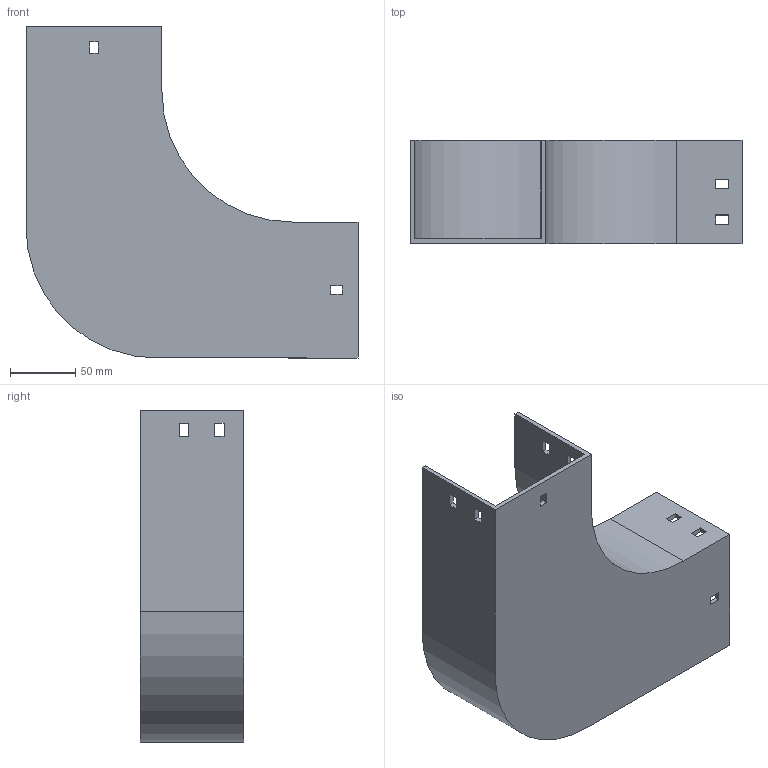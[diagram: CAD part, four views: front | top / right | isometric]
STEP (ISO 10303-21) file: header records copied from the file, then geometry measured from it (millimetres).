
FILE_DESCRIPTION (( 'STEP AP214' ), '1' );
FILE_NAME ('10B1C100.step', '2025-02-21T09:41:29', ( '' ), ( '' ), 'SwSTEP 2.0', 'SolidWorks 2023', '' );
FILE_SCHEMA (( 'AUTOMOTIVE_DESIGN' ));
Length unit declared in the file: millimetre
Products named in the file (1): 10B1C100
Bounding box: 254 x 79 x 254 mm (x, y, z)
Volume: 335517.1 mm3; surface area: 197205.6 mm2
Topology: 1 solids, 1 shells, 58 faces, 168 edges, 112 vertices
Faces by surface type: plane 54, cylinder 4
Entity records: 1943 total; most frequent: CARTESIAN_POINT 339, ORIENTED_EDGE 336, DIRECTION 294, EDGE_CURVE 168, LINE 160, VECTOR 160, VERTEX_POINT 112, EDGE_LOOP 78
